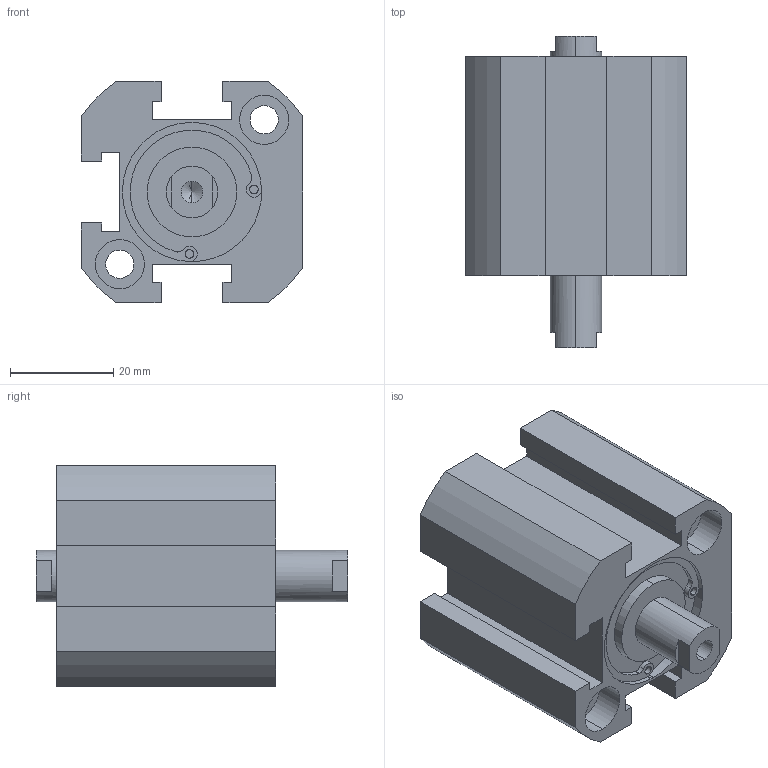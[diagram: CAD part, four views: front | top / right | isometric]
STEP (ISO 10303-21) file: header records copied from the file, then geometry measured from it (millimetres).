
FILE_DESCRIPTION (( 'STEP AP203' ), '1' );
FILE_NAME ('XG#7-25D-10.STEP', '2016-05-24T01:58:01', ( '' ), ( '' ), 'SwSTEP 2.0', 'SolidWorks 2014', '' );
FILE_SCHEMA (( 'CONFIG_CONTROL_DESIGN' ));
Length unit declared in the file: millimetre
Products named in the file (1): XG#7-25D-10
Bounding box: 43 x 60.5 x 43 mm (x, y, z)
Volume: 58434.3 mm3; surface area: 15878.8 mm2
Topology: 1 solids, 1 shells, 127 faces, 321 edges, 206 vertices
Faces by surface type: cylinder 65, plane 54, cone 8
Entity records: 3886 total; most frequent: DIRECTION 707, CARTESIAN_POINT 647, ORIENTED_EDGE 626, EDGE_CURVE 313, AXIS2_PLACEMENT_3D 266, VERTEX_POINT 206, VECTOR 175, LINE 175
